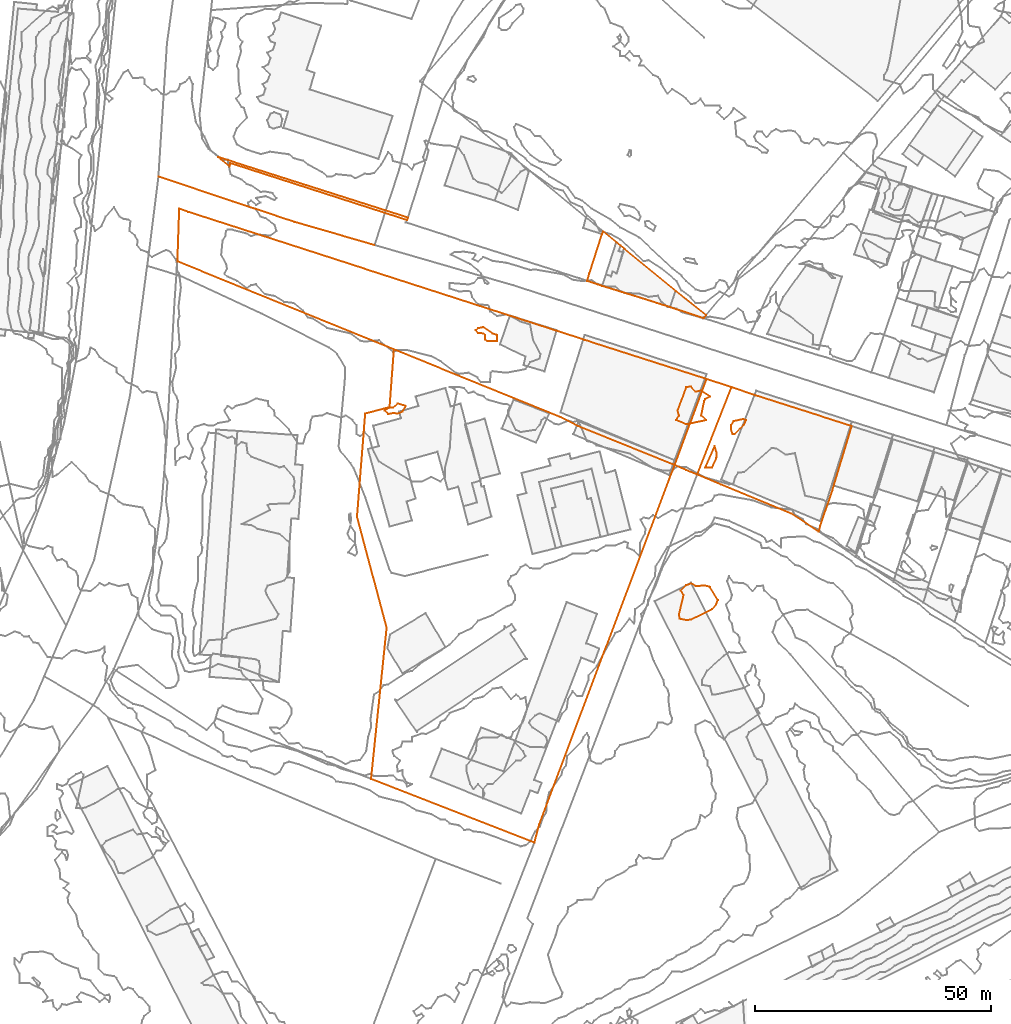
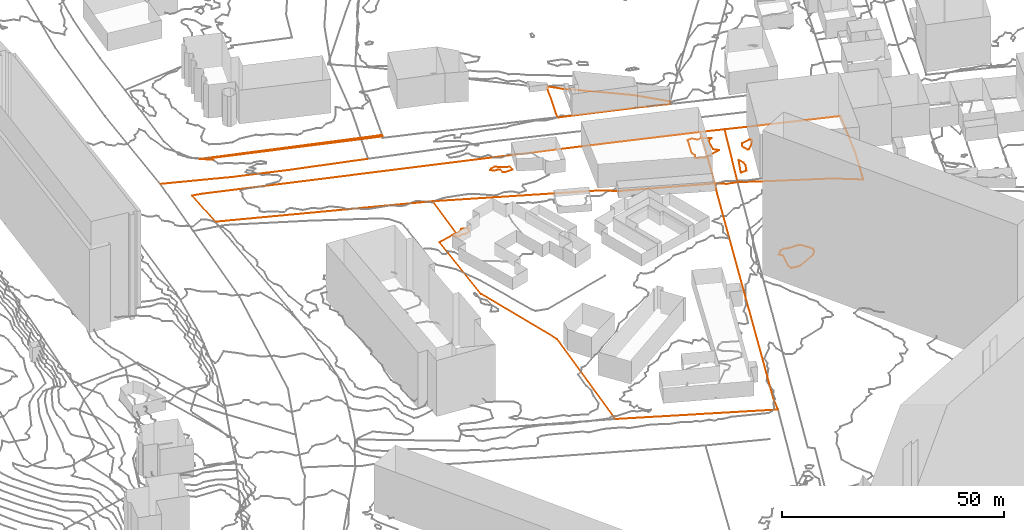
# Not in any storey, part 186 of 419: 13 proxies.
"""IFC2X3 model written with IfcOpenShell, lengths in metres."""

from ifc_helpers import new_model, entity, si_unit, frame, origin_with_axes, place, context, subcontext, project, element, save


model = new_model("IFC2X3")

# Units and contexts
model_context = context("Model", 3, precision=1e-05, world=origin_with_axes())
body_context = subcontext(model_context, "Body", "Model", "MODEL_VIEW")
ifc_project = project(units=[si_unit("AREAUNIT", "SQUARE_METRE"), si_unit("LENGTHUNIT", "METRE")], contexts=[model_context])

# Proxies
proxy_1_placement = place(None, frame((693.4920204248, 209.3976909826, 77.0), z_axis=(0.0, 0.0, 1.0), x_axis=(1.0, 0.0, 0.0)))
element("IfcBuildingElementProxy", 1, at=proxy_1_placement, Name="Route 193", ObjectType="NOTDEFINED", context=body_context, shape_type="GeometricCurveSet", body=[
    entity("IfcGeometricCurveSet", [entity("IfcPolyline", [entity("IfcCartesianPoint", [45.7, -14.5, -0.3]), entity("IfcCartesianPoint", [28.7999999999, -9.5999999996, -0.3]), entity("IfcCartesianPoint", [15.7999999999, -5.2999999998, -0.4]), entity("IfcCartesianPoint", [0.0, 0.0, 0.0])])]),
])
proxy_2_placement = place(None, frame((807.3820204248, 146.4076909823, 75.8007190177), z_axis=(0.0, 0.0, 1.0), x_axis=(1.0, 0.0, 0.0)))
element("IfcBuildingElementProxy", 2, at=proxy_2_placement, Name="Cadastre 103", ObjectType="NOTDEFINED", context=body_context, shape_type="GeometricCurveSet", body=[
    entity("IfcGeometricCurveSet", [entity("IfcPolyline", [entity("IfcCartesianPoint", [32.6799999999, 10.2200000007, 0.5650383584]), entity("IfcCartesianPoint", [28.6, -3.2999999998, 0.6059444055]), entity("IfcCartesianPoint", [26.01, -10.9299999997, -0.2933622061]), entity("IfcCartesianPoint", [25.73, -12.0899999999, -0.9504788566]), entity("IfcCartesianPoint", [19.9399999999, -8.3099999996, -0.9405975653]), entity("IfcCartesianPoint", [5.0599999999, -2.1399999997, -0.2667596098]), entity("IfcCartesianPoint", [0.0, 0.0, 0.0]), entity("IfcCartesianPoint", [7.26, 18.4400000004, 0.8220552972]), entity("IfcCartesianPoint", [12.5, 16.6900000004, 0.7734092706]), entity("IfcCartesianPoint", [32.6799999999, 10.2200000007, 0.5650383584])])]),
])
proxy_3_placement = place(None, frame((802.6220204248, 148.3876909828, 75.9179592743), z_axis=(0.0, 0.0, 1.0), x_axis=(1.0, 0.0, 0.0)))
element("IfcBuildingElementProxy", 3, at=proxy_3_placement, Name="Cadastre 105", ObjectType="NOTDEFINED", context=body_context, shape_type="GeometricCurveSet", body=[
    entity("IfcGeometricCurveSet", [entity("IfcPolyline", [entity("IfcCartesianPoint", [6.74, 18.1899999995, 0.7763112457]), entity("IfcCartesianPoint", [12.02, 16.46, 0.7048150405]), entity("IfcCartesianPoint", [4.76, -1.9800000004, -0.1172402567]), entity("IfcCartesianPoint", [2.39, -1.0300000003, -0.3472137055]), entity("IfcCartesianPoint", [0.0, 0.0, 0.0]), entity("IfcCartesianPoint", [6.74, 18.1899999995, 0.7763112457])])]),
])
proxy_4_placement = place(None, frame((784.1320204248, 187.3176909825, 76.9089439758), z_axis=(0.0, 0.0, 1.0), x_axis=(1.0, 0.0, 0.0)))
element("IfcBuildingElementProxy", 4, at=proxy_4_placement, Name="Cadastre 107", ObjectType="NOTDEFINED", context=body_context, shape_type="GeometricCurveSet", body=[
    entity("IfcGeometricCurveSet", [entity("IfcPolyline", [entity("IfcCartesianPoint", [3.37, 10.4800000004, 1.0517542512]), entity("IfcCartesianPoint", [6.2, 8.1500000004, 0.7328467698]), entity("IfcCartesianPoint", [7.08, 7.4699999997, 0.8328746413]), entity("IfcCartesianPoint", [7.76, 6.8600000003, 0.8652170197]), entity("IfcCartesianPoint", [18.6899999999, -2.1099999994, 0.8754082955]), entity("IfcCartesianPoint", [25.12, -7.25, 0.0590236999]), entity("IfcCartesianPoint", [24.6, -7.8899999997, -0.1206974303]), entity("IfcCartesianPoint", [17.5699999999, -5.54, -0.0291496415]), entity("IfcCartesianPoint", [3.1799999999, -1.0499999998, 0.0360767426]), entity("IfcCartesianPoint", [0.0, 0.0, 0.0]), entity("IfcCartesianPoint", [0.45, 1.6000000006, 0.2507065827]), entity("IfcCartesianPoint", [3.12, 9.8799999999, 0.796854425]), entity("IfcCartesianPoint", [3.37, 10.4800000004, 1.0517542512])])]),
])
proxy_5_placement = place(None, frame((697.4920204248, 191.4576909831, 76.0767765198), z_axis=(0.0, 0.0, 1.0), x_axis=(1.0, 0.0, 0.0)))
element("IfcBuildingElementProxy", 5, at=proxy_5_placement, Name="Cadastre 108", ObjectType="NOTDEFINED", context=body_context, shape_type="GeometricCurveSet", body=[
    entity("IfcGeometricCurveSet", [entity("IfcPolyline", [entity("IfcCartesianPoint", [111.87, -24.8800000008, 0.6174940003]), entity("IfcCartesianPoint", [105.13, -43.0700000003, -0.1588172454]), entity("IfcCartesianPoint", [84.76, -34.8300000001, -0.1416233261]), entity("IfcCartesianPoint", [81.04, -32.9400000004, 0.2014254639]), entity("IfcCartesianPoint", [45.78, -18.6200000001, 0.8829352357]), entity("IfcCartesianPoint", [0.0, 0.0, 0.0]), entity("IfcCartesianPoint", [0.39, 11.1699999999, 0.2889561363]), entity("IfcCartesianPoint", [2.29, 10.4799999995, 0.4951143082]), entity("IfcCartesianPoint", [86.05, -16.5900000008, 0.7175555]), entity("IfcCartesianPoint", [111.87, -24.8800000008, 0.6174940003])])]),
])
proxy_6_placement = place(None, frame((735.4820204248, 137.5176909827, 75.6056653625), z_axis=(0.0, 0.0, 1.0), x_axis=(1.0, 0.0, 0.0)))
element("IfcBuildingElementProxy", 6, at=proxy_6_placement, Name="Cadastre 109", ObjectType="NOTDEFINED", context=body_context, shape_type="GeometricCurveSet", body=[
    entity("IfcGeometricCurveSet", [entity("IfcPolyline", [entity("IfcCartesianPoint", [67.14, 10.8700000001, 0.3122939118]), entity("IfcCartesianPoint", [65.96, 7.7999999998, -0.2267062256]), entity("IfcCartesianPoint", [38.49, -65.1299999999, -2.7901886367]), entity("IfcCartesianPoint", [37.49, -68.9699999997, -3.119464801]), entity("IfcCartesianPoint", [2.96, -55.5, -1.8104138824]), entity("IfcCartesianPoint", [6.26, -23.5099999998, -0.4096410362]), entity("IfcCartesianPoint", [0.0, 0.0, 0.0]), entity("IfcCartesianPoint", [1.72, 21.7599999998, 0.4805882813]), entity("IfcCartesianPoint", [6.88, 23.1299999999, 0.3551103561]), entity("IfcCartesianPoint", [7.79, 35.3200000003, 1.3540463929]), entity("IfcCartesianPoint", [43.05, 21.0, 0.6725366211]), entity("IfcCartesianPoint", [46.77, 19.1100000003, 0.3294878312]), entity("IfcCartesianPoint", [67.14, 10.8700000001, 0.3122939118])])]),
])
proxy_7_placement = place(None, frame((706.0520204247, 213.5376909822, 76.9517152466), z_axis=(0.0, 0.0, 1.0), x_axis=(1.0, 0.0, 0.0)))
element("IfcBuildingElementProxy", 7, at=proxy_7_placement, Name="Cadastre 113", ObjectType="NOTDEFINED", context=body_context, shape_type="GeometricCurveSet", body=[
    entity("IfcGeometricCurveSet", [entity("IfcPolyline", [entity("IfcCartesianPoint", [40.1900000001, -12.8299999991, 0.32196895]), entity("IfcCartesianPoint", [40.01, -13.3599999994, 0.2918834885]), entity("IfcCartesianPoint", [2.63, -1.2999999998, 0.1481544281]), entity("IfcCartesianPoint", [2.4800000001, -2.0, 0.0979827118]), entity("IfcCartesianPoint", [0.0, 0.0, 0.0]), entity("IfcCartesianPoint", [40.1900000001, -12.8299999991, 0.32196895])])]),
])
proxy_8_placement = place(None, frame((760.5920370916, 176.8976909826, 77.0), z_axis=(0.0, 0.0, 1.0), x_axis=(1.0, 0.0, 0.0)))
element("IfcBuildingElementProxy", 8, at=proxy_8_placement, Name="Contour 77.0 m", ObjectType="NOTDEFINED", context=body_context, shape_type="GeometricCurveSet", body=[
    entity("IfcGeometricCurveSet", [entity("IfcPolyline", [entity("IfcCartesianPoint", [4.4999833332, -2.3334181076, 0.0]), entity("IfcCartesianPoint", [4.4998833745, -1.0, 0.0]), entity("IfcCartesianPoint", [3.4999833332, -0.6665818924, 0.0]), entity("IfcCartesianPoint", [1.4999833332, 0.6665818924, 0.0]), entity("IfcCartesianPoint", [0.4999833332, 0.4285558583, 0.0]), entity("IfcCartesianPoint", [0.0, 0.0, 0.0]), entity("IfcCartesianPoint", [0.4999833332, -0.60003052, 0.0]), entity("IfcCartesianPoint", [1.4999833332, -0.6665818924, 0.0]), entity("IfcCartesianPoint", [2.0000333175, -1.0, 0.0]), entity("IfcCartesianPoint", [2.0000333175, -2.0, 0.0]), entity("IfcCartesianPoint", [2.4999833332, -2.3334181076, 0.0]), entity("IfcCartesianPoint", [4.4999833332, -2.3334181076, 0.0])])]),
])
proxy_9_placement = place(None, frame((741.2919899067, 159.8976909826, 76.0), z_axis=(0.0, 0.0, 1.0), x_axis=(1.0, 0.0, 0.0)))
element("IfcBuildingElementProxy", 9, at=proxy_9_placement, Name="Contour 76.0 m", ObjectType="NOTDEFINED", context=body_context, shape_type="GeometricCurveSet", body=[
    entity("IfcGeometricCurveSet", [entity("IfcPolyline", [entity("IfcCartesianPoint", [3.8000305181, -0.2000000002, 0.0]), entity("IfcCartesianPoint", [4.466739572, 1.0, 0.0]), entity("IfcCartesianPoint", [2.8000305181, 1.5293959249, 0.0]), entity("IfcCartesianPoint", [1.8000305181, 0.666666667, 0.0]), entity("IfcCartesianPoint", [0.8000305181, 0.5714441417, 0.0]), entity("IfcCartesianPoint", [0.0, 0.0, 0.0]), entity("IfcCartesianPoint", [0.8000305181, -0.7272853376, 0.0]), entity("IfcCartesianPoint", [1.8000305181, -0.4999916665, 0.0]), entity("IfcCartesianPoint", [2.8000305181, -0.6538529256, 0.0]), entity("IfcCartesianPoint", [3.8000305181, -0.2000000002, 0.0])])]),
])
proxy_10_placement = place(None, frame((802.9253749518, 157.8976909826, 77.0), z_axis=(0.0, 0.0, 1.0), x_axis=(1.0, 0.0, 0.0)))
element("IfcBuildingElementProxy", 10, at=proxy_10_placement, Name="Contour 77.0 m", ObjectType="NOTDEFINED", context=body_context, shape_type="GeometricCurveSet", body=[
    entity("IfcGeometricCurveSet", [entity("IfcPolyline", [entity("IfcCartesianPoint", [6.3095337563, 0.0, 0.0]), entity("IfcCartesianPoint", [2.166645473, -0.8888920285, 0.0]), entity("IfcCartesianPoint", [0.0, 0.0, 0.0]), entity("IfcCartesianPoint", [0.6110804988, 1.0, 0.0]), entity("IfcCartesianPoint", [0.3333333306, 2.0, 0.0]), entity("IfcCartesianPoint", [2.166645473, 7.0000500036, 0.0]), entity("IfcCartesianPoint", [3.166645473, 7.0769366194, 0.0]), entity("IfcCartesianPoint", [4.166645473, 6.0000166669, 0.0]), entity("IfcCartesianPoint", [5.166645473, 6.2499761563, 0.0]), entity("IfcCartesianPoint", [7.1666579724, 5.0, 0.0]), entity("IfcCartesianPoint", [6.166645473, 4.4545706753, 0.0]), entity("IfcCartesianPoint", [5.9492440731, 4.0, 0.0]), entity("IfcCartesianPoint", [5.3030028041, 1.0, 0.0]), entity("IfcCartesianPoint", [6.3095337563, 0.0, 0.0])])]),
])
proxy_11_placement = place(None, frame((814.5503603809, 155.8976909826, 77.0), z_axis=(0.0, 0.0, 1.0), x_axis=(1.0, 0.0, 0.0)))
element("IfcBuildingElementProxy", 11, at=proxy_11_placement, Name="Contour 77.0 m", ObjectType="NOTDEFINED", context=body_context, shape_type="GeometricCurveSet", body=[
    entity("IfcGeometricCurveSet", [entity("IfcPolyline", [entity("IfcCartesianPoint", [0.7083055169, -1.0, 0.0]), entity("IfcCartesianPoint", [0.3598607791, -1.0, 0.0]), entity("IfcCartesianPoint", [0.0, 0.0, 0.0]), entity("IfcCartesianPoint", [0.023137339, 1.0, 0.0]), entity("IfcCartesianPoint", [0.5416600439, 1.7777730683, 0.0]), entity("IfcCartesianPoint", [2.5416600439, 2.2307647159, 0.0]), entity("IfcCartesianPoint", [3.1416905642, 2.0, 0.0]), entity("IfcCartesianPoint", [2.7083055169, 1.0, 0.0]), entity("IfcCartesianPoint", [0.7083055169, -1.0, 0.0])])]),
])
proxy_12_placement = place(None, frame((809.0920173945, 147.8976909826, 77.0), z_axis=(0.0, 0.0, 1.0), x_axis=(1.0, 0.0, 0.0)))
element("IfcBuildingElementProxy", 12, at=proxy_12_placement, Name="Contour 77.0 m", ObjectType="NOTDEFINED", context=body_context, shape_type="GeometricCurveSet", body=[
    entity("IfcGeometricCurveSet", [entity("IfcPolyline", [entity("IfcCartesianPoint", [1.4285588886, 0.0, 0.0]), entity("IfcCartesianPoint", [0.0, 0.0, 0.0]), entity("IfcCartesianPoint", [2.0000030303, 4.5000124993, 0.0]), entity("IfcCartesianPoint", [2.4615482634, 3.0, 0.0]), entity("IfcCartesianPoint", [2.3529481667, 2.0, 0.0]), entity("IfcCartesianPoint", [1.4285588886, 0.0, 0.0])])]),
])
proxy_13_placement = place(None, frame((803.5626244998, 116.8976909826, 72.0), z_axis=(0.0, 0.0, 1.0), x_axis=(1.0, 0.0, 0.0)))
element("IfcBuildingElementProxy", 13, at=proxy_13_placement, Name="Contour 72.0 m", ObjectType="NOTDEFINED", context=body_context, shape_type="GeometricCurveSet", body=[
    entity("IfcGeometricCurveSet", [entity("IfcPolyline", [entity("IfcCartesianPoint", [2.529395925, -1.1600036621, 0.0]), entity("IfcCartesianPoint", [6.9579517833, 1.0, 0.0]), entity("IfcCartesianPoint", [7.8293882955, 2.0, 0.0]), entity("IfcCartesianPoint", [8.205066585, 3.0, 0.0]), entity("IfcCartesianPoint", [6.529395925, 5.7333299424, 0.0]), entity("IfcCartesianPoint", [5.529395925, 5.9999962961, 0.0]), entity("IfcCartesianPoint", [3.529395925, 5.9240538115, 0.0]), entity("IfcCartesianPoint", [2.529395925, 6.4615399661, 0.0]), entity("IfcCartesianPoint", [1.529395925, 6.0869435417, 0.0]), entity("IfcCartesianPoint", [0.3755475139, 5.0, 0.0]), entity("IfcCartesianPoint", [0.9579517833, 4.0, 0.0]), entity("IfcCartesianPoint", [0.0, 0.0, 0.0]), entity("IfcCartesianPoint", [0.129380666, -1.0, 0.0]), entity("IfcCartesianPoint", [1.529395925, -1.3077058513, 0.0]), entity("IfcCartesianPoint", [2.529395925, -1.1600036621, 0.0])])]),
])

save(model, "model.ifc")
